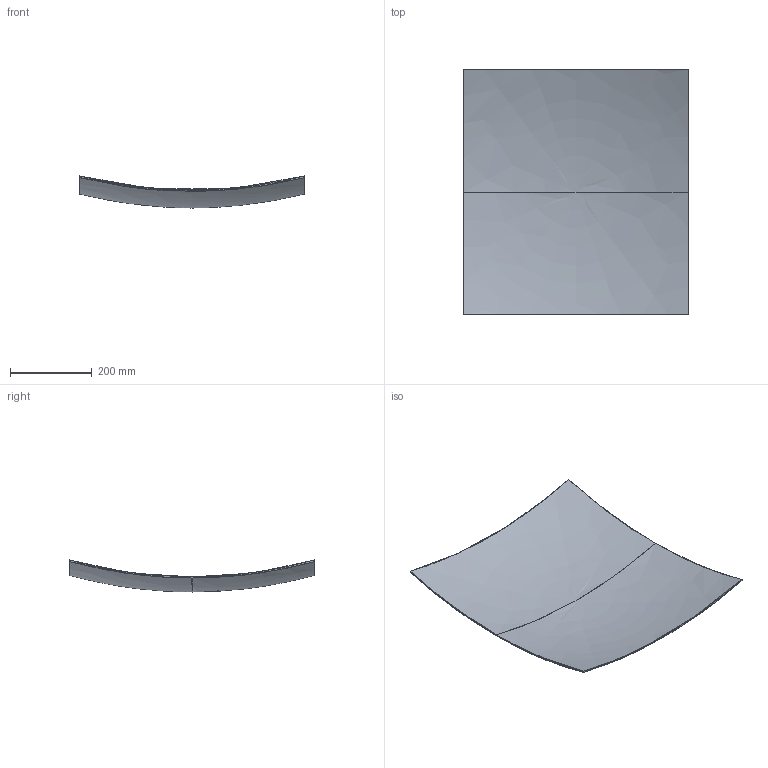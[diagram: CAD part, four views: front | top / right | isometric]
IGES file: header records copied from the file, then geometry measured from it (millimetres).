
Start section: C
Global section: file name: mirror_alone_para.igs; native system:  By UGS Corp.; preprocessor: XPlus GENERIC/IGES 3.0; author: Author; organization: Title; date: 20110219.170921; units: millimetre
Bounding box: 550 x 600 x 78.47 mm (x, y, z)
Surface area: 682152.7 mm2 (no closed solid volume)
Topology: 0 solids, 0 shells, 8 faces, 44 edges, 40 vertices
Faces by surface type: bspline 8
